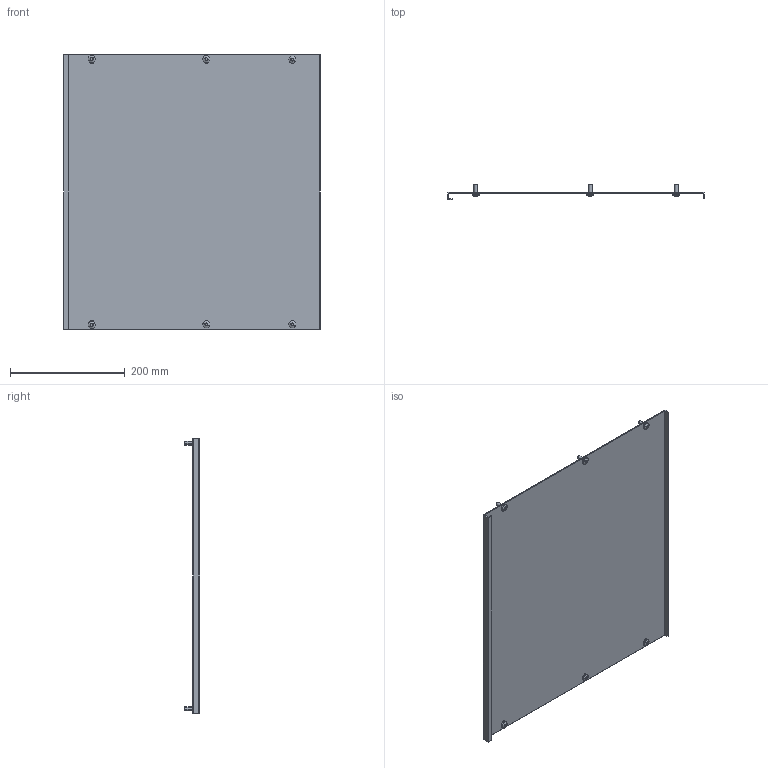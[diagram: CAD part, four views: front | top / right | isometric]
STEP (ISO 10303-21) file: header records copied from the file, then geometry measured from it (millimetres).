
FILE_DESCRIPTION (( 'STEP AP214' ), '1' );
FILE_NAME ('FO-00-PVS-045-060 Ïëàñòðîí ãëóõîé âíóòðåííèé 450õ600.STEP', '2025-09-30T07:43:11', ( '' ), ( '' ), 'SwSTEP 2.0', 'SolidWorks 2023', '' );
FILE_SCHEMA (( 'AUTOMOTIVE_DESIGN' ));
Length unit declared in the file: millimetre
Products named in the file (3): Винт M6x16 045 IEK; FO-00-PVS-045-060 Пластрон глухой внутренний 450х600
Assembly tree (3 placements, depth 2):
  FO-00-PVS-045-060 Пластрон глухой внутренний 450х600
    FO-00-PVS-045-060 Пластрон глухой внутренний 450х600
    Винт M6x16 045 IEK  x2
Bounding box: 448 x 27 x 479 mm (x, y, z)
Volume: 344793.8 mm3; surface area: 460480.7 mm2
Topology: 7 solids, 7 shells, 214 faces, 558 edges, 364 vertices
Faces by surface type: cylinder 132, plane 52, cone 18, bspline 12
Entity records: 4464 total; most frequent: CARTESIAN_POINT 1022, ORIENTED_EDGE 708, DIRECTION 692, EDGE_CURVE 354, AXIS2_PLACEMENT_3D 256, VERTEX_POINT 232, VECTOR 180, LINE 180
